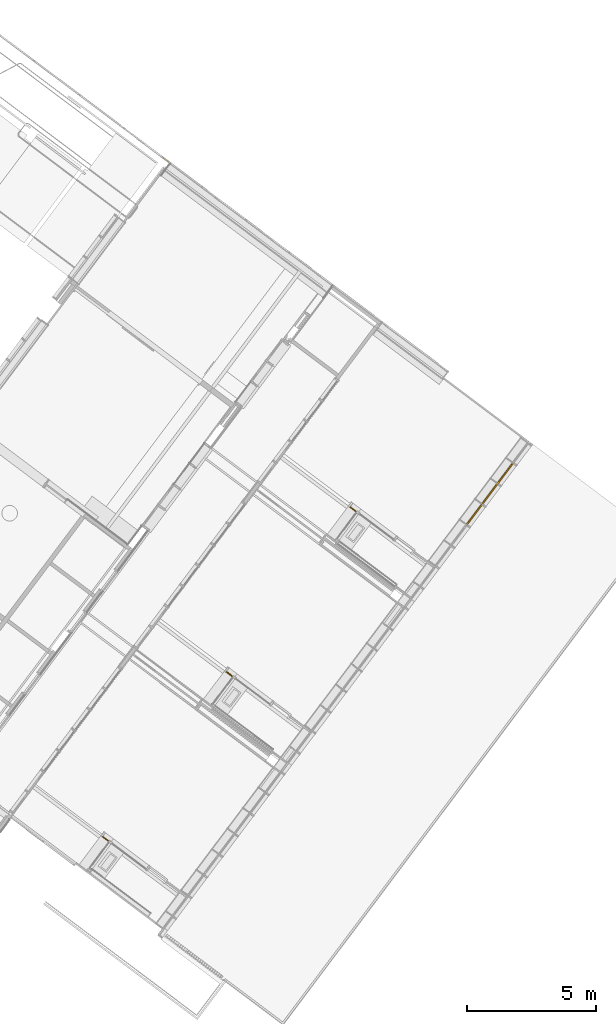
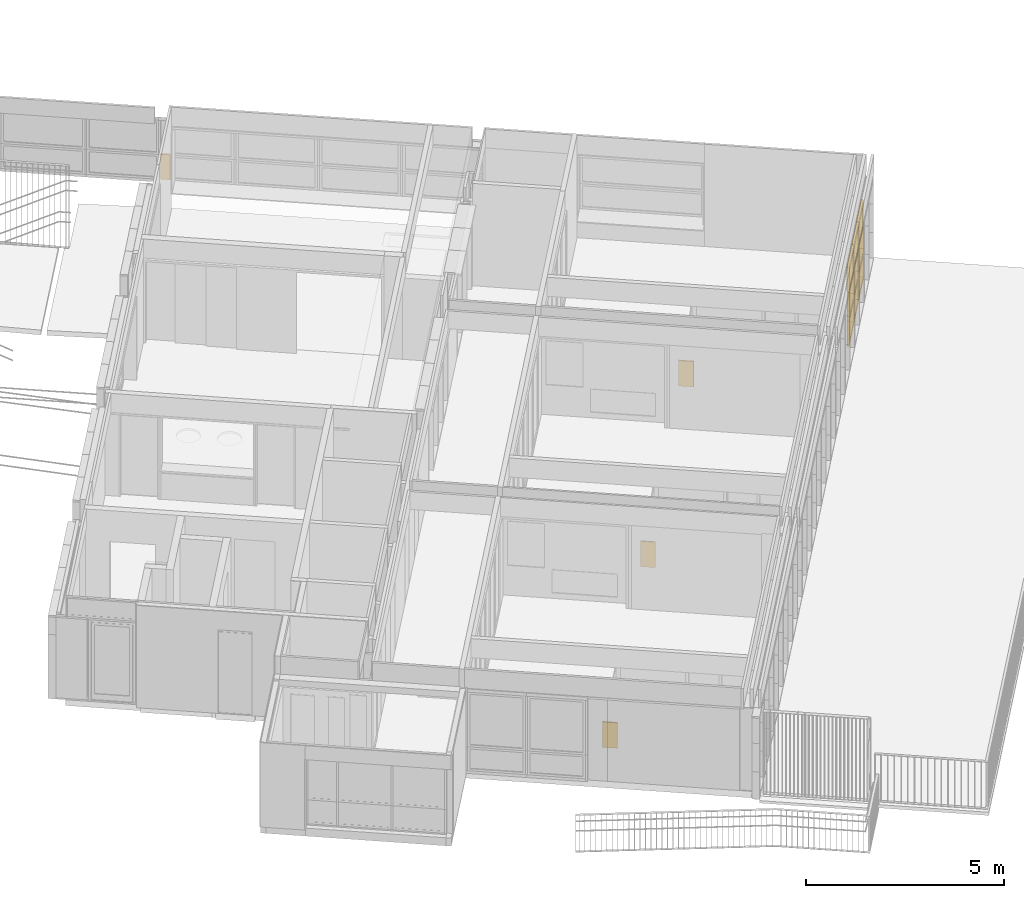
# One storey, part 214 of 243: 10 windows, 3 curtain walls, 5 elements without a shape of their own.
"""IFC2X3 building model written with IfcOpenShell, lengths in metres."""

from ifc_helpers import new_model, entity, si_unit, converted_unit, derived_unit, direction, frame, frame_2d, origin, origin_2d_with_axis, place, context, subcontext, project, spatial, polyline, rectangle, outline, extrude, faceted_brep, source, transform, mapped, material, material_list, layer, layer_set, layer_usage, type_object, type_shapes, element, aggregate, save


model = new_model("IFC2X3")

# Units and contexts
model_context = context("Model", 3, precision=1e-05, world=origin(), true_north=direction((6.123031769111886e-17, 1.0)))
body_context = subcontext(model_context, "Body", "Model", "MODEL_VIEW")
ifc_project = project(units=[si_unit("LENGTHUNIT", "METRE"), si_unit("AREAUNIT", "SQUARE_METRE"), si_unit("VOLUMEUNIT", "CUBIC_METRE"), converted_unit("PLANEANGLEUNIT", "DEGREE", entity("IfcRatioMeasure", 0.017453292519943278), si_unit("PLANEANGLEUNIT", "RADIAN"), dimensions=[0, 0, 0, 0, 0, 0, 0]), si_unit("MASSUNIT", "GRAM", prefix="KILO"), derived_unit("MASSDENSITYUNIT", [(si_unit("MASSUNIT", "GRAM", prefix="KILO"), 1), (si_unit("LENGTHUNIT", "METRE"), -3)]), derived_unit("IONCONCENTRATIONUNIT", [(si_unit("MASSUNIT", "GRAM", prefix="KILO"), 1), (si_unit("LENGTHUNIT", "METRE"), -3)]), derived_unit("MOMENTOFINERTIAUNIT", [(si_unit("LENGTHUNIT", "METRE"), 4)]), si_unit("TIMEUNIT", "SECOND"), si_unit("FREQUENCYUNIT", "HERTZ"), si_unit("THERMODYNAMICTEMPERATUREUNIT", "DEGREE_CELSIUS"), derived_unit("THERMALTRANSMITTANCEUNIT", [(si_unit("MASSUNIT", "GRAM", prefix="KILO"), 1), (si_unit("THERMODYNAMICTEMPERATUREUNIT", "KELVIN"), -1), (si_unit("TIMEUNIT", "SECOND"), -3)]), derived_unit("THERMALCONDUCTANCEUNIT", [(si_unit("MASSUNIT", "GRAM", prefix="KILO"), 1), (si_unit("THERMODYNAMICTEMPERATUREUNIT", "KELVIN"), -1), (si_unit("TIMEUNIT", "SECOND"), -3), (si_unit("LENGTHUNIT", "METRE"), 1)]), derived_unit("VOLUMETRICFLOWRATEUNIT", [(si_unit("LENGTHUNIT", "METRE"), 3), (si_unit("TIMEUNIT", "SECOND"), -1)]), derived_unit("MASSFLOWRATEUNIT", [(si_unit("MASSUNIT", "GRAM", prefix="KILO"), 1), (si_unit("TIMEUNIT", "SECOND"), -1)]), derived_unit("ROTATIONALFREQUENCYUNIT", [(si_unit("TIMEUNIT", "SECOND"), -1)]), si_unit("ELECTRICCURRENTUNIT", "AMPERE"), si_unit("ELECTRICVOLTAGEUNIT", "VOLT"), si_unit("POWERUNIT", "WATT"), si_unit("FORCEUNIT", "NEWTON", prefix="KILO"), si_unit("ILLUMINANCEUNIT", "LUX"), si_unit("LUMINOUSFLUXUNIT", "LUMEN"), si_unit("LUMINOUSINTENSITYUNIT", "CANDELA"), derived_unit("USERDEFINED", [(si_unit("MASSUNIT", "GRAM", prefix="KILO"), -1), (si_unit("LENGTHUNIT", "METRE"), -2), (si_unit("TIMEUNIT", "SECOND"), 3), (si_unit("LUMINOUSFLUXUNIT", "LUMEN"), 1)]), derived_unit("USERDEFINED", [(si_unit("MASSUNIT", "GRAM", prefix="KILO"), 1), (si_unit("TIMEUNIT", "SECOND"), -3), (si_unit("LENGTHUNIT", "METRE"), 3), (si_unit("ELECTRICCURRENTUNIT", "AMPERE"), -2)]), derived_unit("SOUNDPOWERUNIT", [(si_unit("MASSUNIT", "GRAM", prefix="KILO"), 1), (si_unit("TIMEUNIT", "SECOND"), -3), (si_unit("LENGTHUNIT", "METRE"), 2)]), derived_unit("SOUNDPRESSUREUNIT", [(si_unit("MASSUNIT", "GRAM", prefix="KILO"), 1), (si_unit("LENGTHUNIT", "METRE"), -1), (si_unit("TIMEUNIT", "SECOND"), -2)]), derived_unit("LINEARVELOCITYUNIT", [(si_unit("LENGTHUNIT", "METRE"), 1), (si_unit("TIMEUNIT", "SECOND"), -1)]), si_unit("PRESSUREUNIT", "PASCAL"), derived_unit("USERDEFINED", [(si_unit("MASSUNIT", "GRAM", prefix="KILO"), 1), (si_unit("LENGTHUNIT", "METRE"), -2), (si_unit("TIMEUNIT", "SECOND"), -2)]), derived_unit("LINEARFORCEUNIT", [(si_unit("MASSUNIT", "GRAM", prefix="KILO"), 1), (si_unit("TIMEUNIT", "SECOND"), -2)]), derived_unit("PLANARFORCEUNIT", [(si_unit("MASSUNIT", "GRAM", prefix="KILO"), 1), (si_unit("LENGTHUNIT", "METRE"), -1), (si_unit("TIMEUNIT", "SECOND"), -2)]), derived_unit("SPECIFICHEATCAPACITYUNIT", [(si_unit("THERMODYNAMICTEMPERATUREUNIT", "KELVIN"), -1), (si_unit("LENGTHUNIT", "METRE"), 2), (si_unit("TIMEUNIT", "SECOND"), -2)]), derived_unit("HEATINGVALUEUNIT", [(si_unit("LENGTHUNIT", "METRE"), 2), (si_unit("TIMEUNIT", "SECOND"), -2)]), derived_unit("VAPORPERMEABILITYUNIT", [(si_unit("LENGTHUNIT", "METRE"), -1), (si_unit("TIMEUNIT", "SECOND"), 1)]), derived_unit("DYNAMICVISCOSITYUNIT", [(si_unit("MASSUNIT", "GRAM", prefix="KILO"), 1), (si_unit("TIMEUNIT", "SECOND"), -1), (si_unit("LENGTHUNIT", "METRE"), -1)]), derived_unit("THERMALEXPANSIONCOEFFICIENTUNIT", [(si_unit("THERMODYNAMICTEMPERATUREUNIT", "KELVIN"), -1)]), derived_unit("MODULUSOFELASTICITYUNIT", [(si_unit("MASSUNIT", "GRAM", prefix="KILO"), 1), (si_unit("LENGTHUNIT", "METRE"), -1), (si_unit("TIMEUNIT", "SECOND"), -2)]), derived_unit("ISOTHERMALMOISTURECAPACITYUNIT", [(si_unit("LENGTHUNIT", "METRE"), 3), (si_unit("MASSUNIT", "GRAM", prefix="KILO"), -1)]), derived_unit("MOISTUREDIFFUSIVITYUNIT", [(si_unit("TIMEUNIT", "SECOND"), -1), (si_unit("LENGTHUNIT", "METRE"), 2)])], contexts=[model_context])

# Site, building, storey
site_placement = place(None, frame((0.0, 0.0, 235.0), z_axis=(0.0, 0.0, 1.0), x_axis=(-0.7996477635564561, 0.6004693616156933, 0.0)))
site = spatial("IfcSite", under=ifc_project, at=site_placement, Name="Default", CompositionType="ELEMENT")
building_placement = place(site_placement, origin())
building = spatial("IfcBuilding", under=site, at=building_placement, CompositionType="ELEMENT")
storey_placement = place(building_placement, origin())
storey = spatial("IfcBuildingStorey", under=building, at=storey_placement, Name="P0- Escola", CompositionType="ELEMENT", Elevation=0.0)

# Curtain walls
curtain_wall_type_1 = type_object("IfcCurtainWallType", Name="Muro cortina:MC- INT- k1", PredefinedType="NOTDEFINED")
curtain_wall_1_placement = place(storey_placement, origin())
curtain_wall_1 = element("IfcCurtainWall", 1, at=curtain_wall_1_placement, inside=storey, type_object=curtain_wall_type_1, Name="Muro cortina:MC- INT- k1", ObjectType="Muro cortina:MC- INT- k1")
ifc_material_1 = material(Name="_Fusta massisa- T1-  REV- PAV")
ifc_layer_1 = layer(ifc_material_1, 0.015)
ifc_material_2 = material(Name="_Genèric perfils, muntants, rastrells")
ifc_layer_2 = layer(ifc_material_2, 0.02)
ifc_layer_set = layer_set([ifc_layer_1, ifc_layer_2], Name="Muro básico:REV- Fusta- T1- 3,5 cm")
ifc_layer_usage = layer_usage(ifc_layer_set, "AXIS2", "NEGATIVE", 0.0175)
curtain_wall_type_2 = type_object("IfcCurtainWallType", Name="Muro básico:REV- Fusta- T1- 3,5 cm", PredefinedType="NOTDEFINED", material=ifc_layer_set)
curtain_wall_2_placement = place(storey_placement, frame((9.955147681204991, -27.82719175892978, 0.0), z_axis=(0.0, 0.0, 1.0), x_axis=(-1.0, 0.0, 0.0)))
curtain_wall_2 = element("IfcCurtainWall", 2, at=curtain_wall_2_placement, type_object=curtain_wall_type_2, material=ifc_layer_usage, Name="Muro básico:REV- Fusta- T1- 3,5 cm", ObjectType="Muro básico:REV- Fusta- T1- 3,5 cm", context=body_context, shape_type="SweptSolid", body=[
    extrude(rectangle(XDim=0.035000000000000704, YDim=0.3850000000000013, at=frame_2d((0.0, -1.0824674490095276e-15), x_axis=(1.0, 0.0))), frame((0.1924999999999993, 0.0, 0.0), z_axis=(0.0, 0.0, 1.0), x_axis=(0.0, 1.0, 0.0)), (0.0, 0.0, 1.0), 0.7849999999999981),
])
aggregate(curtain_wall_1, [curtain_wall_2])

curtain_wall_3_placement = place(storey_placement, origin())
curtain_wall_3 = element("IfcCurtainWall", 3, at=curtain_wall_3_placement, inside=storey, type_object=curtain_wall_type_1, Name="Muro cortina:MC- INT- k1", ObjectType="Muro cortina:MC- INT- k1")
curtain_wall_4_placement = place(storey_placement, frame((9.955147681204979, -35.82719175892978, 0.0), z_axis=(0.0, 0.0, 1.0), x_axis=(-1.0, 0.0, 0.0)))
curtain_wall_4 = element("IfcCurtainWall", 4, at=curtain_wall_4_placement, type_object=curtain_wall_type_2, material=ifc_layer_usage, Name="Muro básico:REV- Fusta- T1- 3,5 cm", ObjectType="Muro básico:REV- Fusta- T1- 3,5 cm", context=body_context, shape_type="SweptSolid", body=[
    extrude(rectangle(XDim=0.035000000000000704, YDim=0.3850000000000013, at=frame_2d((0.0, -1.0824674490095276e-15), x_axis=(1.0, 0.0))), frame((0.19249999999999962, 0.0, 0.0), z_axis=(0.0, 0.0, 1.0), x_axis=(0.0, 1.0, 0.0)), (0.0, 0.0, 1.0), 0.7849999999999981),
])
aggregate(curtain_wall_3, [curtain_wall_4])

curtain_wall_5_placement = place(storey_placement, origin())
curtain_wall_5 = element("IfcCurtainWall", 5, at=curtain_wall_5_placement, inside=storey, type_object=curtain_wall_type_1, Name="Muro cortina:MC- INT- k1", ObjectType="Muro cortina:MC- INT- k1")
curtain_wall_6_placement = place(storey_placement, frame((9.955147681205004, -19.82719175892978, 0.0), z_axis=(0.0, 0.0, 1.0), x_axis=(-1.0, 0.0, 0.0)))
curtain_wall_6 = element("IfcCurtainWall", 6, at=curtain_wall_6_placement, type_object=curtain_wall_type_2, material=ifc_layer_usage, Name="Muro básico:REV- Fusta- T1- 3,5 cm", ObjectType="Muro básico:REV- Fusta- T1- 3,5 cm", context=body_context, shape_type="SweptSolid", body=[
    extrude(rectangle(XDim=0.035000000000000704, YDim=0.3850000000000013, at=frame_2d((0.0, -1.0824674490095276e-15), x_axis=(1.0, 0.0))), frame((0.19249999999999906, 0.0, 0.0), z_axis=(0.0, 0.0, 1.0), x_axis=(0.0, 1.0, 0.0)), (0.0, 0.0, 1.0), 0.7849999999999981),
])
aggregate(curtain_wall_5, [curtain_wall_6])

# Curtain wall, windows
curtain_wall_type_3 = type_object("IfcCurtainWallType", Name="Muro cortina:MC- EXT- MC2", PredefinedType="NOTDEFINED")
curtain_wall_7_placement = place(storey_placement, origin())
curtain_wall_7 = element("IfcCurtainWall", 7, at=curtain_wall_7_placement, inside=storey, type_object=curtain_wall_type_3, Name="Muro cortina:MC- EXT- MC2", ObjectType="Muro cortina:MC- EXT- MC2")
ifc_material_3 = material(Name="_Vidre")
ifc_material_4 = material(Name="_Alumini- T1- Perfil")
ifc_material_list_1 = material_list([ifc_material_3, ifc_material_4])
window_style_1 = type_object("IfcWindowStyle", Name="MC- Alu- Conjunt vidre fix- 62x60 cm:MC- Alu- Conjunt vidre fix- 62x60 cm", ConstructionType="NOTDEFINED", OperationType="NOTDEFINED", ParameterTakesPrecedence=False, Sizeable=False, material=ifc_material_list_1)
shared_shape_1 = source(origin(), body_context, "Body", "Brep", [
    faceted_brep([(0.4361932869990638, -0.007600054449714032, 0.048806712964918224), (0.4361932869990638, -0.03160022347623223, 0.048806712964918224), (-0.4361932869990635, -0.03160022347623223, 0.048806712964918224), (-0.4361932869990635, -0.007600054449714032, 0.048806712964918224), (0.4361932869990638, -0.007600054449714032, 0.7387000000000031), (-0.4361932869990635, -0.007600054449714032, 0.7387000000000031), (-0.4361932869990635, -0.03160022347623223, 0.7387000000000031), (0.4361932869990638, -0.03160022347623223, 0.7387000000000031)], [[[0, 1, 2, 3]], [[4, 0, 3, 5]], [[5, 3, 2, 6]], [[6, 2, 1, 7]], [[7, 1, 0, 4]], [[4, 5, 6, 7]]]),
    faceted_brep([(0.48499999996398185, -0.05999999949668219, 0.7877000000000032), (0.48499999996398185, -0.05999999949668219, 0.0), (0.48499999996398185, 0.0, 0.0), (0.48499999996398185, 0.0, 0.787700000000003), (-0.48499999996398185, 0.0, 0.7877000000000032), (-0.48499999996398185, 0.0, 0.0), (0.4221931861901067, 0.0, 0.7248931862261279), (-0.42219318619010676, 0.0, 0.724893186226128), (-0.4221931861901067, 0.0, 0.0628068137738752), (0.4221931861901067, 0.0, 0.06280681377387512), (-0.48499999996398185, -0.05999999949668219, 0.0), (-0.48499999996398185, -0.05999999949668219, 0.7877000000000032), (-0.42219603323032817, -0.05999999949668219, 0.7248960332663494), (0.42219603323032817, -0.05999999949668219, 0.7248960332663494), (0.42219603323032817, -0.05999999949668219, 0.0628039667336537), (-0.42219603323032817, -0.05999999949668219, 0.0628039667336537), (0.4221960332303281, -0.03160022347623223, 0.7248960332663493), (0.42219603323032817, -0.03160022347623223, 0.0628039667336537), (-0.42219603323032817, -0.03160022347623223, 0.06280396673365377), (-0.42219603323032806, -0.03160022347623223, 0.7248960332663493), (-0.43619328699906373, -0.03160022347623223, 0.738893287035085), (0.43619328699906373, -0.03160022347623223, 0.738893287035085), (0.43619328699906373, -0.03160022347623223, 0.048806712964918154), (-0.43619328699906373, -0.03160022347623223, 0.04880671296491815), (0.43619328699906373, -0.007600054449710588, 0.738893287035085), (0.43619328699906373, -0.007600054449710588, 0.04880671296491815), (-0.43619328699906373, -0.007600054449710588, 0.048806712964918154), (-0.43619328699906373, -0.007600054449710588, 0.738893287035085), (-0.42219318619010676, -0.007600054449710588, 0.724893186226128), (0.42219318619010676, -0.007600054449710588, 0.724893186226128), (0.42219318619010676, -0.007600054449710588, 0.06280681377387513), (-0.42219318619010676, -0.007600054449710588, 0.06280681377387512)], [[[0, 1, 2, 3]], [[4, 3, 2, 5], [6, 7, 8, 9]], [[1, 10, 5, 2]], [[0, 11, 10, 1], [12, 13, 14, 15]], [[16, 17, 14, 13]], [[17, 18, 15, 14]], [[16, 19, 18, 17], [20, 21, 22, 23]], [[24, 25, 22, 21]], [[25, 26, 23, 22]], [[24, 27, 26, 25], [28, 29, 30, 31]], [[6, 9, 30, 29]], [[9, 8, 31, 30]], [[10, 11, 4, 5]], [[18, 19, 12, 15]], [[26, 27, 20, 23]], [[8, 7, 28, 31]], [[11, 0, 3, 4]], [[19, 16, 13, 12]], [[27, 24, 21, 20]], [[7, 6, 29, 28]]], outer=[[True], [True, False], [True], [True, False], [True], [True], [False, True], [True], [True], [True, False], [True], [True], [True], [True], [True], [True], [True], [True], [True], [True]]),
])
type_shapes(window_style_1, [shared_shape_1])
window_1_placement = place(curtain_wall_7_placement, frame((5.885147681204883, -38.49019175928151, 0.03229999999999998), z_axis=(0.0, 0.0, 1.0), x_axis=(0.0, 1.0, 0.0)))
window_1 = element("IfcWindow", 8, at=window_1_placement, type_object=window_style_1, material=ifc_material_list_1, Name="MC- Alu- Conjunt vidre fix- 62x60 cm:MC- Alu- Conjunt vidre fix- 62x60 cm", ObjectType="MC- Alu- Conjunt vidre fix- 62x60 cm:MC- Alu- Conjunt vidre fix- 62x60 cm", OverallHeight=0.7877000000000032, OverallWidth=0.9699999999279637, context=body_context, shape_type="MappedRepresentation", body=[
    mapped(shared_shape_1, transform((0.0, 0.0, 0.0), scale=1.0)),
])
window_2_placement = place(curtain_wall_7_placement, frame((5.885147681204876, -39.4901917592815, 0.03229999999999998), z_axis=(0.0, 0.0, 1.0), x_axis=(0.0, 1.0, 0.0)))
window_2 = element("IfcWindow", 9, at=window_2_placement, type_object=window_style_1, material=ifc_material_list_1, Name="MC- Alu- Conjunt vidre fix- 62x60 cm:MC- Alu- Conjunt vidre fix- 62x60 cm", ObjectType="MC- Alu- Conjunt vidre fix- 62x60 cm:MC- Alu- Conjunt vidre fix- 62x60 cm", OverallHeight=0.7877000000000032, OverallWidth=0.9699999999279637, context=body_context, shape_type="MappedRepresentation", body=[
    mapped(shared_shape_1, transform((0.0, 0.0, 0.0), scale=1.0)),
])
window_3_placement = place(curtain_wall_7_placement, frame((5.885147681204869, -40.4901917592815, 0.03229999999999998), z_axis=(0.0, 0.0, 1.0), x_axis=(0.0, 1.0, 0.0)))
window_3 = element("IfcWindow", 10, at=window_3_placement, type_object=window_style_1, material=ifc_material_list_1, Name="MC- Alu- Conjunt vidre fix- 62x60 cm:MC- Alu- Conjunt vidre fix- 62x60 cm", ObjectType="MC- Alu- Conjunt vidre fix- 62x60 cm:MC- Alu- Conjunt vidre fix- 62x60 cm", OverallHeight=0.7877000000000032, OverallWidth=0.9699999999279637, context=body_context, shape_type="MappedRepresentation", body=[
    mapped(shared_shape_1, transform((0.0, 0.0, 0.0), scale=1.0)),
])
window_style_2 = type_object("IfcWindowStyle", Name="MC- Alu- Conjunt vidre fix- 62x60 cm:MC- Alu- Conjunt vidre fix- 62x60 cm", ConstructionType="NOTDEFINED", OperationType="NOTDEFINED", ParameterTakesPrecedence=False, Sizeable=False, material=ifc_material_list_1)
shared_shape_2 = source(origin(), body_context, "Body", "Brep", [
    faceted_brep([(0.4361932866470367, -0.007600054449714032, 0.048806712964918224), (0.4361932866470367, -0.03160022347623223, 0.048806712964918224), (-0.43619328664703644, -0.03160022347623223, 0.048806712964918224), (-0.43619328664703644, -0.007600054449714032, 0.048806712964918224), (0.4361932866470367, -0.007600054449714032, 0.8260000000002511), (-0.43619328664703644, -0.007600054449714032, 0.8260000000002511), (-0.43619328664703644, -0.03160022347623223, 0.8260000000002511), (0.4361932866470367, -0.03160022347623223, 0.8260000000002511)], [[[0, 1, 2, 3]], [[4, 0, 3, 5]], [[5, 3, 2, 6]], [[6, 2, 1, 7]], [[7, 1, 0, 4]], [[4, 5, 6, 7]]]),
    faceted_brep([(0.4849999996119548, -0.05999999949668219, 0.875000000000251), (0.4849999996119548, -0.05999999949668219, 0.0), (0.4849999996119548, 0.0, 0.0), (0.4849999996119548, 0.0, 0.8750000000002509), (-0.4849999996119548, 0.0, 0.875000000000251), (-0.4849999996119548, 0.0, 0.0), (0.4221931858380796, 0.0, 0.8121931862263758), (-0.4221931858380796, 0.0, 0.8121931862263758), (-0.4221931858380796, 0.0, 0.0628068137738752), (0.4221931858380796, 0.0, 0.06280681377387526), (-0.4849999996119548, -0.05999999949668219, 0.0), (-0.4849999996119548, -0.05999999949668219, 0.875000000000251), (-0.4221960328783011, -0.05999999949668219, 0.8121960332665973), (0.4221960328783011, -0.05999999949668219, 0.8121960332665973), (0.4221960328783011, -0.05999999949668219, 0.0628039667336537), (-0.4221960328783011, -0.05999999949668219, 0.0628039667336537), (0.422196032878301, -0.03160022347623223, 0.8121960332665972), (0.4221960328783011, -0.03160022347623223, 0.0628039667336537), (-0.4221960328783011, -0.03160022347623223, 0.06280396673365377), (-0.42219603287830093, -0.03160022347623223, 0.8121960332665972), (-0.4361932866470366, -0.03160022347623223, 0.8261932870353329), (0.4361932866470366, -0.03160022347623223, 0.8261932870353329), (0.4361932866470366, -0.03160022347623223, 0.048806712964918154), (-0.4361932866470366, -0.03160022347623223, 0.04880671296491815), (0.4361932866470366, -0.007600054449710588, 0.8261932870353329), (0.4361932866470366, -0.007600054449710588, 0.04880671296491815), (-0.4361932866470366, -0.007600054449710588, 0.048806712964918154), (-0.4361932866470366, -0.007600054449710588, 0.8261932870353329), (-0.42219318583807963, -0.007600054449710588, 0.8121931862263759), (0.42219318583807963, -0.007600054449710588, 0.8121931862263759), (0.42219318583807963, -0.007600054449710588, 0.06280681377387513), (-0.42219318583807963, -0.007600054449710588, 0.06280681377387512)], [[[0, 1, 2, 3]], [[4, 3, 2, 5], [6, 7, 8, 9]], [[1, 10, 5, 2]], [[0, 11, 10, 1], [12, 13, 14, 15]], [[16, 17, 14, 13]], [[17, 18, 15, 14]], [[16, 19, 18, 17], [20, 21, 22, 23]], [[24, 25, 22, 21]], [[25, 26, 23, 22]], [[24, 27, 26, 25], [28, 29, 30, 31]], [[6, 9, 30, 29]], [[9, 8, 31, 30]], [[10, 11, 4, 5]], [[18, 19, 12, 15]], [[26, 27, 20, 23]], [[8, 7, 28, 31]], [[11, 0, 3, 4]], [[19, 16, 13, 12]], [[27, 24, 21, 20]], [[7, 6, 29, 28]]], outer=[[True], [True, False], [True], [True, False], [True], [True], [False, True], [True], [True], [True, False], [True], [True], [True], [True], [True], [True], [True], [True], [True], [True]]),
])
type_shapes(window_style_2, [shared_shape_2])
window_4_placement = place(curtain_wall_7_placement, frame((5.885147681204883, -38.490191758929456, 0.8199999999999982), z_axis=(0.0, 0.0, 1.0), x_axis=(0.0, 1.0, 0.0)))
window_4 = element("IfcWindow", 11, at=window_4_placement, type_object=window_style_2, material=ifc_material_list_1, Name="MC- Alu- Conjunt vidre fix- 62x60 cm:MC- Alu- Conjunt vidre fix- 62x60 cm", ObjectType="MC- Alu- Conjunt vidre fix- 62x60 cm:MC- Alu- Conjunt vidre fix- 62x60 cm", OverallHeight=0.875000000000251, OverallWidth=0.9699999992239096, context=body_context, shape_type="MappedRepresentation", body=[
    mapped(shared_shape_2, transform((0.0, 0.0, 0.0), scale=1.0)),
])
window_5_placement = place(curtain_wall_7_placement, frame((5.885147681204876, -39.49019175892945, 0.8199999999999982), z_axis=(0.0, 0.0, 1.0), x_axis=(0.0, 1.0, 0.0)))
window_5 = element("IfcWindow", 12, at=window_5_placement, type_object=window_style_2, material=ifc_material_list_1, Name="MC- Alu- Conjunt vidre fix- 62x60 cm:MC- Alu- Conjunt vidre fix- 62x60 cm", ObjectType="MC- Alu- Conjunt vidre fix- 62x60 cm:MC- Alu- Conjunt vidre fix- 62x60 cm", OverallHeight=0.875000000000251, OverallWidth=0.9699999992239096, context=body_context, shape_type="MappedRepresentation", body=[
    mapped(shared_shape_2, transform((0.0, 0.0, 0.0), scale=1.0)),
])
window_6_placement = place(curtain_wall_7_placement, frame((5.885147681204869, -40.49019175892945, 0.8199999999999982), z_axis=(0.0, 0.0, 1.0), x_axis=(0.0, 1.0, 0.0)))
window_6 = element("IfcWindow", 13, at=window_6_placement, type_object=window_style_2, material=ifc_material_list_1, Name="MC- Alu- Conjunt vidre fix- 62x60 cm:MC- Alu- Conjunt vidre fix- 62x60 cm", ObjectType="MC- Alu- Conjunt vidre fix- 62x60 cm:MC- Alu- Conjunt vidre fix- 62x60 cm", OverallHeight=0.875000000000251, OverallWidth=0.9699999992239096, context=body_context, shape_type="MappedRepresentation", body=[
    mapped(shared_shape_2, transform((0.0, 0.0, 0.0), scale=1.0)),
])
window_style_3 = type_object("IfcWindowStyle", Name="MC- Alu- Conjunt finestra basculant- 68x68 cm:MC- Alu- Conjunt finestra basculant- 68x68 cm", ConstructionType="NOTDEFINED", OperationType="NOTDEFINED", ParameterTakesPrecedence=False, Sizeable=False, material=ifc_material_list_1)
shared_shape_3 = source(origin(), body_context, "Body", "Brep", [
    faceted_brep([(0.43291170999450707, -0.03559830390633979, 0.051999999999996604), (-0.4329117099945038, -0.03559830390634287, 0.051999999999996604), (-0.4329117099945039, -0.011598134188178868, 0.051999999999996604), (0.4329117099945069, -0.011598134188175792, 0.051999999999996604), (0.43291170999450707, -0.035598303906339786, 0.7365527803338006), (0.4329117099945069, -0.011598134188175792, 0.7365527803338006), (-0.4329117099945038, -0.011598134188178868, 0.7365527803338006), (-0.4329117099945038, -0.03559830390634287, 0.7365527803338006)], [[[0, 1, 2, 3]], [[4, 0, 3, 5]], [[5, 3, 2, 6]], [[6, 2, 1, 7]], [[7, 1, 0, 4]], [[4, 5, 6, 7]]]),
    faceted_brep([(-0.41721088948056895, -0.009998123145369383, 0.7208519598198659), (-0.41721088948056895, -0.00999812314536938, 0.06789804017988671), (-0.41721088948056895, -0.007998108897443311, 0.06789804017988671), (-0.41721088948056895, -0.007998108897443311, 0.7208519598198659), (-0.4461089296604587, -0.007998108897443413, 0.7497499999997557), (0.4461089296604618, -0.007998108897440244, 0.7497499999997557), (0.4461089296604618, -0.007998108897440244, 0.03899999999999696), (-0.4461089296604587, -0.007998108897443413, 0.03899999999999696), (0.41721088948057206, -0.007998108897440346, 0.7208519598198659), (0.41721088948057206, -0.007998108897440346, 0.06789804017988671), (0.41721088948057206, -0.009998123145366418, 0.06789804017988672), (0.41721088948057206, -0.009998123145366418, 0.7208519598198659), (0.432911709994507, -0.00999812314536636, 0.7365527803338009), (-0.4329117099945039, -0.009998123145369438, 0.7365527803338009), (-0.4329117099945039, -0.009998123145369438, 0.05219721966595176), (0.432911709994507, -0.00999812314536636, 0.052197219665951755), (-0.43291170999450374, -0.04079986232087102, 0.7365527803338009), (-0.43291170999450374, -0.04079986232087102, 0.052197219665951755), (0.4329117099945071, -0.04079986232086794, 0.05219721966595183), (0.4329117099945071, -0.04079986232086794, 0.7365527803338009), (0.41721088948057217, -0.040799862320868, 0.7208519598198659), (-0.4172108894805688, -0.04079986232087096, 0.7208519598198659), (-0.4172108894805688, -0.04079986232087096, 0.06789804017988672), (0.41721088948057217, -0.040799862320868, 0.06789804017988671), (-0.4172108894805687, -0.06800005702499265, 0.7208519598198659), (-0.4172108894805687, -0.06800005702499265, 0.06789804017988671), (0.41721088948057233, -0.0680000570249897, 0.06789804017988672), (0.4172108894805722, -0.0680000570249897, 0.7208519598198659), (0.46361289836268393, -0.06800005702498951, 0.7672539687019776), (-0.46361289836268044, -0.06800005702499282, 0.7672539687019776), (-0.46361289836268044, -0.06800005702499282, 0.021496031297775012), (0.46361289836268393, -0.06800005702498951, 0.021496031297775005), (-0.46361289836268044, -0.0645000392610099, 0.7672539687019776), (-0.46361289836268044, -0.06450003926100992, 0.021496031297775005), (0.46361289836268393, -0.06450003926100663, 0.02149603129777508), (0.46361289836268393, -0.06450003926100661, 0.7672539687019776), (0.446108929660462, -0.06450003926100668, 0.7497499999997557), (-0.44610892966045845, -0.06450003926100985, 0.7497499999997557), (-0.44610892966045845, -0.06450003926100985, 0.03899999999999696), (0.446108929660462, -0.06450003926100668, 0.038999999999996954)], [[[0, 1, 2, 3]], [[4, 5, 6, 7], [8, 3, 2, 9]], [[1, 10, 9, 2]], [[0, 11, 10, 1], [12, 13, 14, 15]], [[16, 17, 14, 13]], [[17, 18, 15, 14]], [[16, 19, 18, 17], [20, 21, 22, 23]], [[24, 25, 22, 21]], [[25, 26, 23, 22]], [[24, 27, 26, 25], [28, 29, 30, 31]], [[32, 33, 30, 29]], [[33, 34, 31, 30]], [[32, 35, 34, 33], [36, 37, 38, 39]], [[4, 7, 38, 37]], [[7, 6, 39, 38]], [[10, 11, 8, 9]], [[18, 19, 12, 15]], [[26, 27, 20, 23]], [[34, 35, 28, 31]], [[6, 5, 36, 39]], [[11, 0, 3, 8]], [[19, 16, 13, 12]], [[27, 24, 21, 20]], [[35, 32, 29, 28]], [[5, 4, 37, 36]]], outer=[[True], [True, False], [True], [False, True], [True], [True], [True, False], [True], [True], [False, True], [True], [True], [True, False], [True], [True], [True], [True], [True], [True], [True], [True], [True], [True], [True], [True]]),
    faceted_brep([(0.4221931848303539, 0.0, 0.7259431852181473), (0.4221931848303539, 0.0, 0.06280681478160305), (0.4221931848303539, -0.0040000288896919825, 0.06280681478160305), (0.4221931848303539, -0.0040000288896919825, 0.7259431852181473), (-0.4221931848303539, -0.0040000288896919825, 0.7259431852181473), (-0.4221931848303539, -0.0040000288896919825, 0.06280681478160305), (0.45759980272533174, -0.0040000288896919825, 0.7613498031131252), (-0.45759980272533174, -0.0040000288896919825, 0.7613498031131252), (-0.45759980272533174, -0.0040000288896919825, 0.027400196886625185), (0.45759980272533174, -0.0040000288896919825, 0.02740019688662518), (-0.4221931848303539, 0.0, 0.06280681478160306), (-0.4221931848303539, 0.0, 0.7259431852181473), (-0.4849999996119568, 0.0, 0.7887499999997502), (0.4849999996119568, 0.0, 0.7887499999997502), (0.4849999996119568, 0.0, 0.0), (-0.4849999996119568, 0.0, 0.0), (0.4849999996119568, -0.05999999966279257, 0.7887499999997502), (0.4849999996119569, -0.05999999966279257, 0.0), (-0.4849999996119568, -0.05999999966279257, 0.0), (-0.4849999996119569, -0.05999999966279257, 0.7887499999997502), (-0.45759980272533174, -0.05999999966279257, 0.7613498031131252), (0.45759980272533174, -0.05999999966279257, 0.7613498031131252), (0.45759980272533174, -0.05999999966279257, 0.027400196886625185), (-0.45759980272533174, -0.05999999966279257, 0.02740019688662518)], [[[0, 1, 2, 3]], [[4, 3, 2, 5], [6, 7, 8, 9]], [[1, 10, 5, 2]], [[0, 11, 10, 1], [12, 13, 14, 15]], [[16, 17, 14, 13]], [[17, 18, 15, 14]], [[16, 19, 18, 17], [20, 21, 22, 23]], [[6, 9, 22, 21]], [[9, 8, 23, 22]], [[10, 11, 4, 5]], [[18, 19, 12, 15]], [[8, 7, 20, 23]], [[11, 0, 3, 4]], [[19, 16, 13, 12]], [[7, 6, 21, 20]]], outer=[[True], [False, True], [True], [False, True], [True], [True], [True, False], [True], [True], [True], [True], [True], [True], [True], [True]]),
])
type_shapes(window_style_3, [shared_shape_3])
window_7_placement = place(curtain_wall_7_placement, frame((5.885147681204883, -38.49019175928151, 1.6950000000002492), z_axis=(0.0, 0.0, 1.0), x_axis=(0.0, 1.0, 0.0)))
window_7 = element("IfcWindow", 14, at=window_7_placement, type_object=window_style_3, material=ifc_material_list_1, Name="MC- Alu- Conjunt finestra basculant- 68x68 cm:MC- Alu- Conjunt finestra basculant- 68x68 cm", ObjectType="MC- Alu- Conjunt finestra basculant- 68x68 cm:MC- Alu- Conjunt finestra basculant- 68x68 cm", OverallHeight=0.78874999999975, OverallWidth=0.9699999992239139, context=body_context, shape_type="MappedRepresentation", body=[
    mapped(shared_shape_3, transform((0.0, 0.0, 0.0), scale=1.0)),
])
window_8_placement = place(curtain_wall_7_placement, frame((5.885147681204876, -39.4901917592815, 1.6950000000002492), z_axis=(0.0, 0.0, 1.0), x_axis=(0.0, 1.0, 0.0)))
window_8 = element("IfcWindow", 15, at=window_8_placement, type_object=window_style_3, material=ifc_material_list_1, Name="MC- Alu- Conjunt finestra basculant- 68x68 cm:MC- Alu- Conjunt finestra basculant- 68x68 cm", ObjectType="MC- Alu- Conjunt finestra basculant- 68x68 cm:MC- Alu- Conjunt finestra basculant- 68x68 cm", OverallHeight=0.78874999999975, OverallWidth=0.9699999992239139, context=body_context, shape_type="MappedRepresentation", body=[
    mapped(shared_shape_3, transform((0.0, 0.0, 0.0), scale=1.0)),
])
window_9_placement = place(curtain_wall_7_placement, frame((5.885147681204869, -40.4901917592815, 1.6950000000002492), z_axis=(0.0, 0.0, 1.0), x_axis=(0.0, 1.0, 0.0)))
window_9 = element("IfcWindow", 16, at=window_9_placement, type_object=window_style_3, material=ifc_material_list_1, Name="MC- Alu- Conjunt finestra basculant- 68x68 cm:MC- Alu- Conjunt finestra basculant- 68x68 cm", ObjectType="MC- Alu- Conjunt finestra basculant- 68x68 cm:MC- Alu- Conjunt finestra basculant- 68x68 cm", OverallHeight=0.78874999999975, OverallWidth=0.9699999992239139, context=body_context, shape_type="MappedRepresentation", body=[
    mapped(shared_shape_3, transform((0.0, 0.0, 0.0), scale=1.0)),
])
aggregate(curtain_wall_7, [window_1, window_2, window_3, window_4, window_5, window_6, window_7, window_8, window_9])

# Curtain wall, window
curtain_wall_type_4 = type_object("IfcCurtainWallType", Name="Muro cortina:MC- EXT- MC6", PredefinedType="NOTDEFINED")
curtain_wall_8_placement = place(storey_placement, origin())
curtain_wall_8 = element("IfcCurtainWall", 17, at=curtain_wall_8_placement, inside=storey, type_object=curtain_wall_type_4, Name="Muro cortina:MC- EXT- MC6", ObjectType="Muro cortina:MC- EXT- MC6")
ifc_material_5 = material(Name="<Unnamed>")
ifc_material_list_2 = material_list([ifc_material_5, ifc_material_3, ifc_material_4])
window_style_4 = type_object("IfcWindowStyle", Name="MC- Alu- Conjunt vidre fix revestiment:MC- Alu- Conjunt vidre fix revestiment", ConstructionType="NOTDEFINED", OperationType="NOTDEFINED", ParameterTakesPrecedence=False, Sizeable=False, material=ifc_material_list_2)
shared_shape_4 = source(origin(), body_context, "Body", "SweptSolid", [
    extrude(rectangle(XDim=0.23500000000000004, YDim=0.039999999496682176, at=origin_2d_with_axis()), frame((0.0, -0.02999999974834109, 0.0050000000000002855), z_axis=(0.0, 0.0, 1.0), x_axis=(-1.0, 0.0, 0.0)), (0.0, 0.0, 1.0), 0.7599999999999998),
    extrude(rectangle(XDim=0.24500000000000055, YDim=0.010000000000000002, at=frame_2d((-6.938893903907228e-18, 0.0), x_axis=(1.0, 0.0))), frame((0.0, -0.005000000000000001, 0.0), z_axis=(0.0, 0.0, 1.0), x_axis=(-1.0, 0.0, 0.0)), (0.0, 0.0, 1.0), 0.7700000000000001),
    extrude(outline(polyline([(-0.38500000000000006, -0.1225000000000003), (0.38500000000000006, -0.1225000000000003), (0.38500000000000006, 0.1225000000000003), (-0.38500000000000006, 0.1225000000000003), (-0.38500000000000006, -0.1225000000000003)]), holes=[polyline([(-0.3800000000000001, 0.11750000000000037), (0.3800000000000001, 0.11750000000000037), (0.3800000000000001, -0.11750000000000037), (-0.3800000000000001, -0.11750000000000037), (-0.3800000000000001, 0.11750000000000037)])]), frame((0.0, -0.010000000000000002, 0.38500000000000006), z_axis=(0.0, -1.0, 0.0), x_axis=(0.0, 0.0, -1.0)), (0.0, 0.0, 1.0), 0.03999999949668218),
])
type_shapes(window_style_4, [shared_shape_4])
window_10_placement = place(curtain_wall_8_placement, frame((23.772647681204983, -42.34019175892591, 0.685), z_axis=(0.0, 0.0, 1.0), x_axis=(-1.0, 0.0, 0.0)))
window_10 = element("IfcWindow", 18, at=window_10_placement, type_object=window_style_4, material=ifc_material_list_2, Name="MC- Alu- Conjunt vidre fix revestiment:MC- Alu- Conjunt vidre fix revestiment", ObjectType="MC- Alu- Conjunt vidre fix revestiment:MC- Alu- Conjunt vidre fix revestiment", OverallHeight=0.7700000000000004, OverallWidth=0.24500000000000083, context=body_context, shape_type="MappedRepresentation", body=[
    mapped(shared_shape_4, transform((0.0, 0.0, 0.0), scale=1.0)),
])
aggregate(curtain_wall_8, [window_10])

save(model, "model.ifc")
